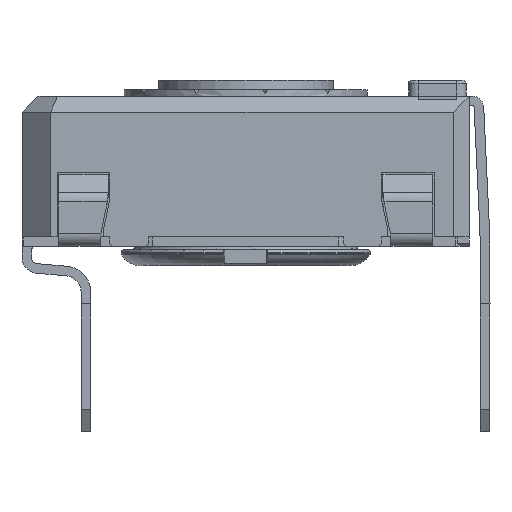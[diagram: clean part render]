
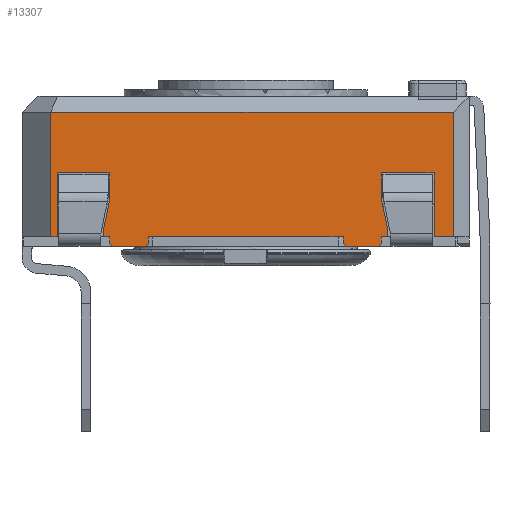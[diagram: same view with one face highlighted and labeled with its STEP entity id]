
A CAD part, left-side view. The second image highlights one B-rep face of the part: STEP entity #13307.
In plain terms, the highlighted planar face has unit normal (-1, 0, 0).
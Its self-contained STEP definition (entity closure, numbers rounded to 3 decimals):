
#1042=FACE_OUTER_BOUND('',#1734,.T.);
#1734=EDGE_LOOP('',(#10634,#10635,#10636,#10637,#10638,#10639,#10640,#10641,
#10642,#10643,#10644,#10645,#10646,#10647,#10648,#10649,#10650,#10651,#10652,
#10653,#10654,#10655,#10656,#10657,#10658,#10659,#10660,#10661));
#2750=LINE('',#20377,#4277);
#2756=LINE('',#20389,#4283);
#2759=LINE('',#20396,#4286);
#2764=LINE('',#20405,#4291);
#2784=LINE('',#20446,#4311);
#2798=LINE('',#20472,#4325);
#2802=LINE('',#20479,#4329);
#2817=LINE('',#20508,#4344);
#2820=LINE('',#20514,#4347);
#2825=LINE('',#20524,#4352);
#2828=LINE('',#20530,#4355);
#2831=LINE('',#20536,#4358);
#2849=LINE('',#20571,#4376);
#2861=LINE('',#20593,#4388);
#2864=LINE('',#20599,#4391);
#2901=LINE('',#20733,#4428);
#2904=LINE('',#20739,#4431);
#2930=LINE('',#20786,#4457);
#2935=LINE('',#20796,#4462);
#2937=LINE('',#20799,#4464);
#3062=LINE('',#21110,#4589);
#3064=LINE('',#21115,#4591);
#3067=LINE('',#21119,#4594);
#3069=LINE('',#21123,#4596);
#3072=LINE('',#21131,#4599);
#3073=LINE('',#21133,#4600);
#3074=LINE('',#21134,#4601);
#3075=LINE('',#21135,#4602);
#4277=VECTOR('',#16319,10.);
#4283=VECTOR('',#16327,10.);
#4286=VECTOR('',#16332,10.);
#4291=VECTOR('',#16339,10.);
#4311=VECTOR('',#16373,10.);
#4325=VECTOR('',#16387,10.);
#4329=VECTOR('',#16391,10.);
#4344=VECTOR('',#16418,10.);
#4347=VECTOR('',#16423,10.);
#4352=VECTOR('',#16430,10.);
#4355=VECTOR('',#16435,10.);
#4358=VECTOR('',#16440,10.);
#4376=VECTOR('',#16460,10.);
#4388=VECTOR('',#16474,10.);
#4391=VECTOR('',#16479,10.);
#4428=VECTOR('',#16560,10.);
#4431=VECTOR('',#16565,10.);
#4457=VECTOR('',#16593,10.);
#4462=VECTOR('',#16600,10.);
#4464=VECTOR('',#16604,10.);
#4589=VECTOR('',#16895,10.);
#4591=VECTOR('',#16899,10.);
#4594=VECTOR('',#16904,10.);
#4596=VECTOR('',#16910,10.);
#4599=VECTOR('',#16921,10.);
#4600=VECTOR('',#16922,10.);
#4601=VECTOR('',#16923,10.);
#4602=VECTOR('',#16924,10.);
#5712=VERTEX_POINT('',#20374);
#5713=VERTEX_POINT('',#20376);
#5717=VERTEX_POINT('',#20386);
#5719=VERTEX_POINT('',#20392);
#5721=VERTEX_POINT('',#20395);
#5724=VERTEX_POINT('',#20403);
#5749=VERTEX_POINT('',#20469);
#5750=VERTEX_POINT('',#20471);
#5752=VERTEX_POINT('',#20476);
#5753=VERTEX_POINT('',#20478);
#5760=VERTEX_POINT('',#20505);
#5762=VERTEX_POINT('',#20511);
#5766=VERTEX_POINT('',#20521);
#5768=VERTEX_POINT('',#20527);
#5771=VERTEX_POINT('',#20534);
#5787=VERTEX_POINT('',#20569);
#5796=VERTEX_POINT('',#20591);
#5798=VERTEX_POINT('',#20597);
#5825=VERTEX_POINT('',#20731);
#5826=VERTEX_POINT('',#20736);
#5846=VERTEX_POINT('',#20783);
#5850=VERTEX_POINT('',#20793);
#5924=VERTEX_POINT('',#21107);
#5925=VERTEX_POINT('',#21109);
#5926=VERTEX_POINT('',#21113);
#5927=VERTEX_POINT('',#21114);
#5928=VERTEX_POINT('',#21130);
#5929=VERTEX_POINT('',#21132);
#7266=EDGE_CURVE('',#5713,#5712,#2750,.T.);
#7272=EDGE_CURVE('',#5712,#5717,#2756,.T.);
#7275=EDGE_CURVE('',#5721,#5719,#2759,.T.);
#7280=EDGE_CURVE('',#5724,#5719,#2764,.T.);
#7300=EDGE_CURVE('',#5717,#5721,#2784,.T.);
#7314=EDGE_CURVE('',#5750,#5749,#2798,.T.);
#7318=EDGE_CURVE('',#5753,#5752,#2802,.T.);
#7334=EDGE_CURVE('',#5749,#5760,#2817,.T.);
#7337=EDGE_CURVE('',#5760,#5762,#2820,.T.);
#7342=EDGE_CURVE('',#5762,#5766,#2825,.T.);
#7345=EDGE_CURVE('',#5766,#5768,#2828,.T.);
#7348=EDGE_CURVE('',#5768,#5771,#2831,.T.);
#7366=EDGE_CURVE('',#5771,#5787,#2849,.T.);
#7378=EDGE_CURVE('',#5796,#5787,#2861,.T.);
#7381=EDGE_CURVE('',#5798,#5796,#2864,.T.);
#7430=EDGE_CURVE('',#5825,#5798,#2901,.T.);
#7433=EDGE_CURVE('',#5825,#5826,#2904,.T.);
#7459=EDGE_CURVE('',#5826,#5846,#2930,.T.);
#7464=EDGE_CURVE('',#5846,#5850,#2935,.T.);
#7466=EDGE_CURVE('',#5850,#5713,#2937,.T.);
#7607=EDGE_CURVE('',#5924,#5925,#3062,.T.);
#7609=EDGE_CURVE('',#5926,#5927,#3064,.T.);
#7612=EDGE_CURVE('',#5750,#5924,#3067,.T.);
#7614=EDGE_CURVE('',#5752,#5927,#3069,.T.);
#7617=EDGE_CURVE('',#5724,#5928,#3072,.T.);
#7618=EDGE_CURVE('',#5929,#5928,#3073,.T.);
#7619=EDGE_CURVE('',#5753,#5929,#3074,.T.);
#7620=EDGE_CURVE('',#5926,#5925,#3075,.T.);
#10634=ORIENTED_EDGE('',*,*,#7272,.T.);
#10635=ORIENTED_EDGE('',*,*,#7300,.T.);
#10636=ORIENTED_EDGE('',*,*,#7275,.T.);
#10637=ORIENTED_EDGE('',*,*,#7280,.F.);
#10638=ORIENTED_EDGE('',*,*,#7617,.T.);
#10639=ORIENTED_EDGE('',*,*,#7618,.F.);
#10640=ORIENTED_EDGE('',*,*,#7619,.F.);
#10641=ORIENTED_EDGE('',*,*,#7318,.T.);
#10642=ORIENTED_EDGE('',*,*,#7614,.T.);
#10643=ORIENTED_EDGE('',*,*,#7609,.F.);
#10644=ORIENTED_EDGE('',*,*,#7620,.T.);
#10645=ORIENTED_EDGE('',*,*,#7607,.F.);
#10646=ORIENTED_EDGE('',*,*,#7612,.F.);
#10647=ORIENTED_EDGE('',*,*,#7314,.T.);
#10648=ORIENTED_EDGE('',*,*,#7334,.T.);
#10649=ORIENTED_EDGE('',*,*,#7337,.T.);
#10650=ORIENTED_EDGE('',*,*,#7342,.T.);
#10651=ORIENTED_EDGE('',*,*,#7345,.T.);
#10652=ORIENTED_EDGE('',*,*,#7348,.T.);
#10653=ORIENTED_EDGE('',*,*,#7366,.T.);
#10654=ORIENTED_EDGE('',*,*,#7378,.F.);
#10655=ORIENTED_EDGE('',*,*,#7381,.F.);
#10656=ORIENTED_EDGE('',*,*,#7430,.F.);
#10657=ORIENTED_EDGE('',*,*,#7433,.T.);
#10658=ORIENTED_EDGE('',*,*,#7459,.T.);
#10659=ORIENTED_EDGE('',*,*,#7464,.T.);
#10660=ORIENTED_EDGE('',*,*,#7466,.T.);
#10661=ORIENTED_EDGE('',*,*,#7266,.T.);
#12463=PLANE('',#14204);
#13307=ADVANCED_FACE('',(#1042),#12463,.T.);
#14204=AXIS2_PLACEMENT_3D('',#21129,#16919,#16920);
#16319=DIRECTION('',(0.,0.208,-0.978));
#16327=DIRECTION('',(0.,0.,-1.));
#16332=DIRECTION('',(0.,0.,-1.));
#16339=DIRECTION('',(0.,0.707,0.707));
#16373=DIRECTION('',(0.,-1.,0.));
#16387=DIRECTION('',(0.,-1.,0.));
#16391=DIRECTION('',(0.,-1.,0.));
#16418=DIRECTION('',(0.,0.,1.));
#16423=DIRECTION('',(0.,0.208,0.978));
#16430=DIRECTION('',(0.,0.,1.));
#16435=DIRECTION('',(0.,-1.,0.));
#16440=DIRECTION('',(0.,0.,-1.));
#16460=DIRECTION('',(0.,-1.,0.));
#16474=DIRECTION('',(0.,0.,-1.));
#16479=DIRECTION('',(0.,-1.,0.));
#16560=DIRECTION('',(0.,0.,1.));
#16565=DIRECTION('',(0.,-1.,0.));
#16593=DIRECTION('',(0.,0.,1.));
#16600=DIRECTION('',(0.,-1.,0.));
#16604=DIRECTION('',(0.,0.,-1.));
#16895=DIRECTION('',(0.,0.707,-0.707));
#16899=DIRECTION('',(0.,0.707,0.707));
#16904=DIRECTION('',(0.,0.,-1.));
#16910=DIRECTION('',(0.,0.,-1.));
#16919=DIRECTION('center_axis',(-1.,0.,0.));
#16920=DIRECTION('ref_axis',(0.,0.,1.));
#16921=DIRECTION('',(0.,-1.,0.));
#16922=DIRECTION('',(0.,0.707,-0.707));
#16923=DIRECTION('',(0.,0.,-1.));
#16924=DIRECTION('',(0.,-1.,0.));
#20374=CARTESIAN_POINT('',(-14.467,1.552,0.235));
#20376=CARTESIAN_POINT('',(-14.467,1.352,1.176));
#20377=CARTESIAN_POINT('',(-14.467,1.228,1.757));
#20386=CARTESIAN_POINT('',(-14.467,1.552,0.));
#20389=CARTESIAN_POINT('',(-14.467,1.552,0.));
#20392=CARTESIAN_POINT('',(-14.467,1.352,-0.2));
#20395=CARTESIAN_POINT('',(-14.467,1.352,0.));
#20396=CARTESIAN_POINT('',(-14.467,1.352,0.));
#20403=CARTESIAN_POINT('',(-14.467,1.252,-0.3));
#20405=CARTESIAN_POINT('',(-14.467,-1.436,-2.988));
#20446=CARTESIAN_POINT('',(-14.467,4.102,0.));
#20469=CARTESIAN_POINT('',(-14.467,-7.348,0.));
#20471=CARTESIAN_POINT('',(-14.467,-7.148,0.));
#20472=CARTESIAN_POINT('',(-14.467,4.102,0.));
#20476=CARTESIAN_POINT('',(-14.467,-5.948,0.));
#20478=CARTESIAN_POINT('',(-14.467,0.152,0.));
#20479=CARTESIAN_POINT('',(-14.467,4.102,0.));
#20505=CARTESIAN_POINT('',(-14.467,-7.348,0.235));
#20508=CARTESIAN_POINT('',(-14.467,-7.348,0.118));
#20511=CARTESIAN_POINT('',(-14.467,-7.148,1.176));
#20514=CARTESIAN_POINT('',(-14.467,-7.453,-0.254));
#20521=CARTESIAN_POINT('',(-14.467,-7.148,2.));
#20524=CARTESIAN_POINT('',(-14.467,-7.148,0.588));
#20527=CARTESIAN_POINT('',(-14.467,-8.798,2.));
#20530=CARTESIAN_POINT('',(-14.467,-8.523,2.));
#20534=CARTESIAN_POINT('',(-14.467,-8.798,0.));
#20536=CARTESIAN_POINT('',(-14.467,-8.798,0.));
#20569=CARTESIAN_POINT('',(-14.467,-9.398,0.));
#20571=CARTESIAN_POINT('',(-14.467,-9.595,0.));
#20591=CARTESIAN_POINT('',(-14.467,-9.398,3.9));
#20593=CARTESIAN_POINT('',(-14.467,-9.398,0.));
#20597=CARTESIAN_POINT('',(-14.467,3.202,3.9));
#20599=CARTESIAN_POINT('',(-14.467,-6.398,3.9));
#20731=CARTESIAN_POINT('',(-14.467,3.202,0.));
#20733=CARTESIAN_POINT('',(-14.467,3.202,0.));
#20736=CARTESIAN_POINT('',(-14.467,3.002,0.));
#20739=CARTESIAN_POINT('',(-14.467,-2.985,0.));
#20783=CARTESIAN_POINT('',(-14.467,3.002,2.));
#20786=CARTESIAN_POINT('',(-14.467,3.002,0.));
#20793=CARTESIAN_POINT('',(-14.467,1.352,2.));
#20796=CARTESIAN_POINT('',(-14.467,-3.448,2.));
#20799=CARTESIAN_POINT('',(-14.467,1.352,1.));
#21107=CARTESIAN_POINT('',(-14.467,-7.148,-0.2));
#21109=CARTESIAN_POINT('',(-14.467,-7.048,-0.3));
#21110=CARTESIAN_POINT('',(-14.467,-7.861,0.513));
#21113=CARTESIAN_POINT('',(-14.467,-6.048,-0.3));
#21114=CARTESIAN_POINT('',(-14.467,-5.948,-0.2));
#21115=CARTESIAN_POINT('',(-14.467,-6.911,-1.163));
#21119=CARTESIAN_POINT('',(-14.467,-7.148,0.));
#21123=CARTESIAN_POINT('',(-14.467,-5.948,0.));
#21129=CARTESIAN_POINT('Origin',(-14.467,-9.898,0.));
#21130=CARTESIAN_POINT('',(-14.467,0.252,-0.3));
#21131=CARTESIAN_POINT('',(-14.467,0.152,-0.3));
#21132=CARTESIAN_POINT('',(-14.467,0.152,-0.2));
#21133=CARTESIAN_POINT('',(-14.467,-2.386,2.338));
#21134=CARTESIAN_POINT('',(-14.467,0.152,0.));
#21135=CARTESIAN_POINT('',(-14.467,-7.148,-0.3));
